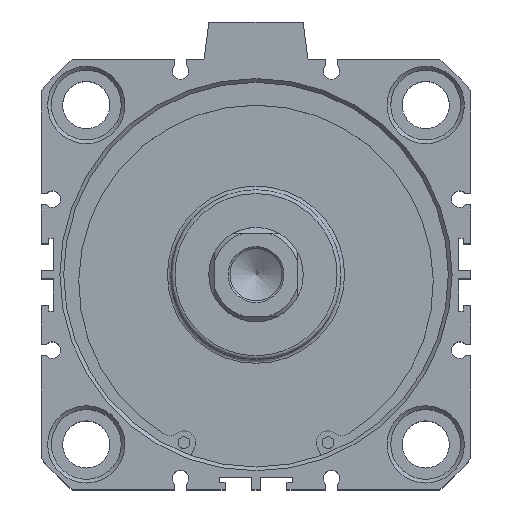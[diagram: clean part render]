
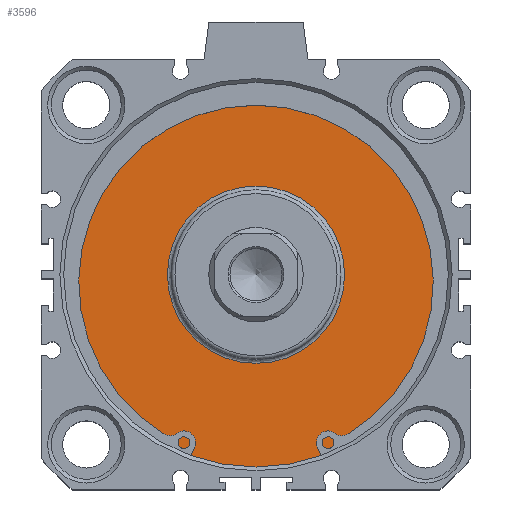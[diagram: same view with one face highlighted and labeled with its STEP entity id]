
A CAD part, top view. The second image highlights one B-rep face of the part: STEP entity #3596.
In plain terms, the highlighted planar face has unit normal (0, 0, 1).
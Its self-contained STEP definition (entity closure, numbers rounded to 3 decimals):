
#3545=CARTESIAN_POINT('',(0.957,25.414,47.6));
#3546=VERTEX_POINT('',#3545);
#3547=CARTESIAN_POINT('',(0.957,1.914,47.6));
#3548=DIRECTION('',(0.0,0.0,1.0));
#3549=DIRECTION('',(0.0,-1.0,0.0));
#3550=AXIS2_PLACEMENT_3D('',#3547,#3548,#3549);
#3551=CIRCLE('',#3550,23.5);
#3552=EDGE_CURVE('',#3546,#3546,#3551,.T.);
#3577=CARTESIAN_POINT('',(0.957,38.664,47.6));
#3578=DIRECTION('',(0.0,0.0,1.0));
#3579=DIRECTION('',(1.0,0.0,0.0));
#3580=AXIS2_PLACEMENT_3D('',#3577,#3578,#3579);
#3581=PLANE('',#3580);
#3582=CARTESIAN_POINT('',(0.957,52.914,47.6));
#3583=VERTEX_POINT('',#3582);
#3584=CARTESIAN_POINT('',(0.957,1.914,47.6));
#3585=DIRECTION('',(0.0,0.0,-1.0));
#3586=DIRECTION('',(0.0,1.0,0.0));
#3587=AXIS2_PLACEMENT_3D('',#3584,#3585,#3586);
#3588=CIRCLE('',#3587,51.);
#3589=EDGE_CURVE('',#3583,#3583,#3588,.T.);
#3590=ORIENTED_EDGE('',*,*,#3589,.F.);
#3591=EDGE_LOOP('',(#3590));
#3592=FACE_OUTER_BOUND('',#3591,.T.);
#3593=ORIENTED_EDGE('',*,*,#3552,.F.);
#3594=EDGE_LOOP('',(#3593));
#3595=FACE_BOUND('',#3594,.T.);
#3596=ADVANCED_FACE('',(#3592,#3595),#3581,.T.);
